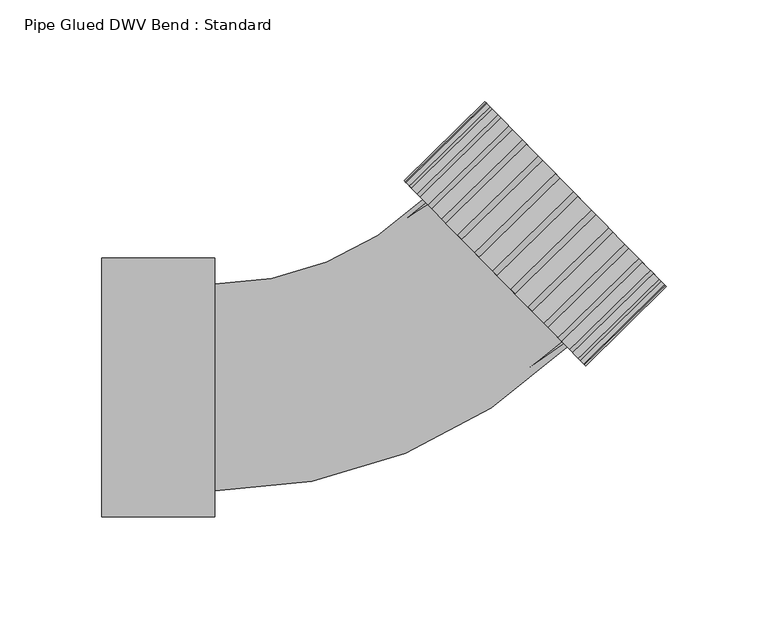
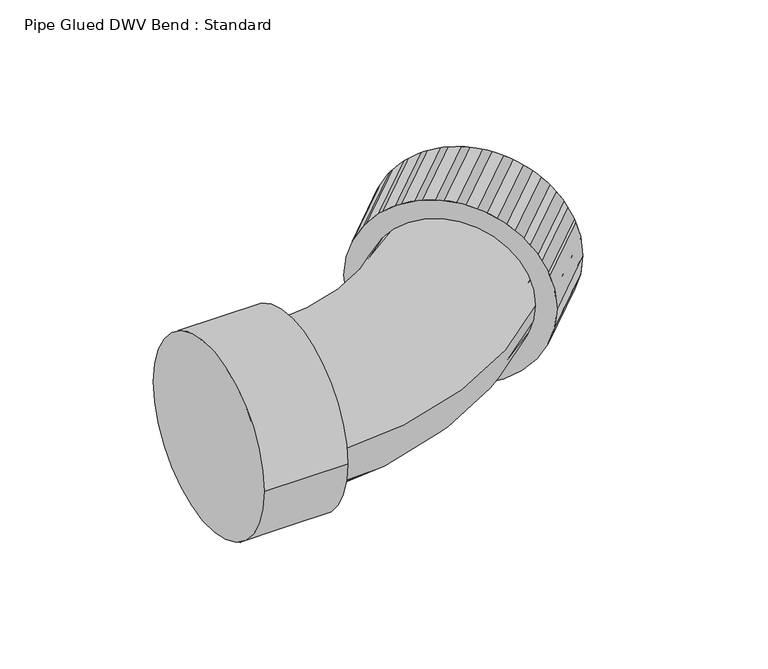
"""IFC4 building model written with IfcOpenShell, lengths in millimetres: pipe fitting geometry, Pipe Glued DWV Bend : Standard."""

from ifc_helpers import new_model, si_unit, point, frame, origin, origin_2d, place, context, project, spatial, circle_curve, ellipse_curve, trimmed, segment, composite_curve, outline, extrude, source, transform, mapped, element, save
from ifc_brep_helpers import plane_surface, cylinder_surface, revolved_surface, advanced_brep


def pipe_glued_dwv_bend_standard_de9b6336(model_context):
    return source(origin(), model_context, "Body", "SolidModel", [
        advanced_brep(
        [(-80.3393907, -50.8, 0.0), (-80.3393907, 50.8, 0.0), (92.9420883, 19.9204899, 0.0), (21.8522508, 92.5069556, 0.0)],
        [
            (0, 1, circle_curve(frame((-80.3393907, 0.0, 0.0), z_axis=(-1.0, 0.0, 0.0), x_axis=(0.0, 1.0, 0.0)), 50.8)),
            (1, 0, circle_curve(frame((-80.3393907, 0.0, 0.0), z_axis=(-1.0, 0.0, 0.0), x_axis=(0.0, 1.0, 0.0)), 50.8)),
            (2, 3, circle_curve(frame((57.3971695, 56.2137227, 0.0), z_axis=(0.7144337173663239, 0.6997031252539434, 0.0), x_axis=(-0.6997031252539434, 0.7144337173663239, 0.0)), 50.8)),
            (3, 2, circle_curve(frame((57.3971695, 56.2137227, 0.0), z_axis=(0.7144337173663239, 0.6997031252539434, 0.0), x_axis=(-0.6997031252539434, 0.7144337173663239, 0.0)), 50.8)),
            (3, 1, circle_curve(frame((-80.3393907, 196.85, 0.0), z_axis=(0.0, 0.0, -1.0), x_axis=(0.0, -1.0, 0.0)), 146.05)),
            (0, 2, circle_curve(frame((-80.3393907, 196.85, 0.0), z_axis=(0.0, 0.0, 1.0), x_axis=(0.0, -1.0, 0.0)), 247.65)),
        ],
        [
            plane_surface(frame((-80.3393907, 0.0, 0.0), z_axis=(-1.0, 0.0, 0.0), x_axis=(0.0, 0.0, 1.0))),
            plane_surface(frame((57.3971695, 56.2137227, 0.0), z_axis=(0.7144337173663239, 0.6997031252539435, 0.0), x_axis=(0.0, 0.0, 1.0))),
            revolved_surface(trimmed(ellipse_curve(frame((-80.3393907, 0.0, 0.0), z_axis=(-1.0, 0.0, 0.0), x_axis=(0.0, 1.0, 0.0)), 50.8, 50.8), [point((-80.3393907, -50.8, 0.0))], [point((-80.3393907, 50.8, 0.0))], True, "CARTESIAN"), (-80.3393907, 196.85, 0.0), (0.0, 0.0, 1.0)),
            revolved_surface(trimmed(ellipse_curve(frame((-80.3393907, 0.0, 0.0), z_axis=(-1.0, 0.0, 0.0), x_axis=(0.0, 1.0, 0.0)), 50.8, 50.8), [point((-80.3393907, 50.8, 0.0))], [point((-80.3393907, -50.8, 0.0))], True, "CARTESIAN"), (-80.3393907, 196.85, 0.0), (0.0, 0.0, 1.0)),
        ],
        [
            (0, [[1, 2]]),
            (1, [[3, 4]]),
            (2, [[5, -1, 6, -4]]),
            (3, [[-6, -2, -5, -3]]),
        ],
    ),
        extrude(outline(composite_curve([segment(trimmed(circle_curve(origin_2d(), 63.754), [point((-63.754, 0.0))], [point((63.754, 0.0))], False, "CARTESIAN"), True, "CONTINUOUS"), segment(trimmed(circle_curve(origin_2d(), 63.754), [point((63.754, 0.0))], [point((-63.754, 0.0))], False, "CARTESIAN"), True, "CONTINUOUS")], self_intersect=False)), frame((-135.9018907, 0.0, 0.0), z_axis=(1.0, 0.0, 0.0), x_axis=(0.0, 1.0, 0.0)), (0.0, 0.0, 1.0), 55.5625),
        extrude(outline(composite_curve([segment(trimmed(circle_curve(origin_2d(), 63.754), [point((0.0, -63.754))], [point((0.0, 63.754))], False, "CARTESIAN"), True, "CONTINUOUS"), segment(trimmed(circle_curve(origin_2d(), 63.754), [point((0.0, 63.754))], [point((0.0, -63.754))], False, "CARTESIAN"), True, "CONTINUOUS")], self_intersect=False)), frame((57.3971695, 56.2137227, 0.0), z_axis=(0.7144337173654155, 0.699703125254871, 0.0), x_axis=(0.0, 0.0, 1.0)), (0.0, 0.0, 1.0), 55.5625),
        advanced_brep(
        [(-135.9018907, -63.754, 0.0), (-135.9018907, 63.754, 0.0), (-80.3393907, -63.754, 0.0), (-80.3393907, 63.754, 0.0), (-80.3393907, -50.8, 0.0), (-80.3393907, 50.8, 0.0), (21.8522508, 92.5069556, 0.0), (92.9420883, 19.9204899, 0.0), (102.0060426, 10.6657155, 0.0), (12.7882965, 101.76173, 0.0), (141.701766, 49.5429704, 0.0), (52.4840199, 140.6389849, 0.0)],
        [
            (0, 1, circle_curve(frame((-135.9018907, 0.0, 0.0), z_axis=(-1.0, 0.0, 0.0), x_axis=(0.0, 1.0, 0.0)), 63.754)),
            (1, 0, circle_curve(frame((-135.9018907, 0.0, 0.0), z_axis=(-1.0, 0.0, 0.0), x_axis=(0.0, 1.0, 0.0)), 63.754)),
            (2, 3, circle_curve(frame((-80.3393907, 0.0, 0.0), z_axis=(1.0, 0.0, 0.0), x_axis=(0.0, 1.0, 0.0)), 63.754)),
            (3, 2, circle_curve(frame((-80.3393907, 0.0, 0.0), z_axis=(1.0, 0.0, 0.0), x_axis=(0.0, 1.0, 0.0)), 63.754)),
            (4, 5, circle_curve(frame((-80.3393907, 0.0, 0.0), z_axis=(-1.0, 0.0, 0.0), x_axis=(0.0, 1.0, 0.0)), 50.8)),
            (5, 4, circle_curve(frame((-80.3393907, 0.0, 0.0), z_axis=(-1.0, 0.0, 0.0), x_axis=(0.0, 1.0, 0.0)), 50.8)),
            (0, 2),
            (3, 1),
            (6, 5, circle_curve(frame((-80.3393907, 196.85, 0.0), z_axis=(0.0, 0.0, -1.0), x_axis=(0.0, -1.0, 0.0)), 146.05)),
            (4, 7, circle_curve(frame((-80.3393907, 196.85, 0.0), z_axis=(0.0, 0.0, 1.0), x_axis=(0.0, -1.0, 0.0)), 247.65)),
            (7, 6, circle_curve(frame((57.3971695, 56.2137227, 0.0), z_axis=(-0.7144337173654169, -0.6997031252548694, 0.0), x_axis=(-0.6997031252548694, 0.7144337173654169, 0.0)), 50.8)),
            (6, 7, circle_curve(frame((57.3971695, 56.2137227, 0.0), z_axis=(-0.7144337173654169, -0.6997031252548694, 0.0), x_axis=(-0.6997031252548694, 0.7144337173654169, 0.0)), 50.8)),
            (8, 9, circle_curve(frame((57.3971695, 56.2137227, 0.0), z_axis=(-0.7144337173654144, -0.6997031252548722, 0.0), x_axis=(-0.6997031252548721, 0.7144337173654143, 0.0)), 63.754)),
            (9, 8, circle_curve(frame((57.3971695, 56.2137227, 0.0), z_axis=(-0.7144337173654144, -0.6997031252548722, 0.0), x_axis=(-0.6997031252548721, 0.7144337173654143, 0.0)), 63.754)),
            (10, 11, circle_curve(frame((97.092893, 95.0909776, 0.0), z_axis=(0.7144337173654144, 0.6997031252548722, 0.0), x_axis=(-0.6997031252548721, 0.7144337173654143, 0.0)), 63.754)),
            (11, 10, circle_curve(frame((97.092893, 95.0909776, 0.0), z_axis=(0.7144337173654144, 0.6997031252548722, 0.0), x_axis=(-0.6997031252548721, 0.7144337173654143, 0.0)), 63.754)),
            (8, 10),
            (11, 9),
        ],
        [
            plane_surface(frame((-135.9018907, 0.0, 0.0), z_axis=(-1.0, 0.0, 0.0), x_axis=(0.0, 0.0, 1.0))),
            plane_surface(frame((-80.3393907, 0.0, 0.0), z_axis=(1.0, 0.0, 0.0), x_axis=(0.0, 0.0, 1.0))),
            cylinder_surface(frame((-135.9018907, 0.0, 0.0), z_axis=(-1.0, 0.0, 0.0), x_axis=(0.0, 1.0, 0.0)), 63.754),
            revolved_surface(trimmed(ellipse_curve(frame((-80.3393907, 0.0, 0.0), z_axis=(-1.0, 0.0, 0.0), x_axis=(0.0, 1.0, 0.0)), 50.8, 50.8), [point((-80.3393907, -50.8, 0.0))], [point((-80.3393907, 50.8, 0.0))], True, "CARTESIAN"), (-80.3393907, 196.85, 0.0), (0.0, 0.0, 1.0)),
            revolved_surface(trimmed(ellipse_curve(frame((-80.3393907, 0.0, 0.0), z_axis=(-1.0, 0.0, 0.0), x_axis=(0.0, 1.0, 0.0)), 50.8, 50.8), [point((-80.3393907, 50.8, 0.0))], [point((-80.3393907, -50.8, 0.0))], True, "CARTESIAN"), (-80.3393907, 196.85, 0.0), (0.0, 0.0, 1.0)),
            plane_surface(frame((57.3971695, 56.2137227, 0.0), z_axis=(-0.7144337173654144, -0.6997031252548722, 0.0), x_axis=(0.0, 0.0, 1.0))),
            plane_surface(frame((97.092893, 95.0909776, 0.0), z_axis=(0.7144337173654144, 0.6997031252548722, 0.0), x_axis=(0.0, 0.0, 1.0))),
            cylinder_surface(frame((57.3971695, 56.2137227, 0.0), z_axis=(-0.7144337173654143, -0.6997031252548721, 0.0), x_axis=(-0.6997031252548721, 0.7144337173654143, 0.0)), 63.754),
        ],
        [
            (0, [[1, 2]]),
            (1, [[3, 4], [5, 6]]),
            (2, [[-1, 7, -4, 8]]),
            (2, [[-2, -8, -3, -7]]),
            (3, [[9, -5, 10, 11]]),
            (4, [[-9, 12, -10, -6]]),
            (5, [[13, 14], [-11, -12]]),
            (6, [[15, 16]]),
            (7, [[-13, 17, -16, 18]]),
            (7, [[-14, -18, -15, -17]]),
        ],
    ),
    ])


if __name__ == "__main__":
    model = new_model("IFC4")
    model_context = context("Model", 3, world=origin())
    ifc_project = project(units=[si_unit("LENGTHUNIT", "METRE", prefix="MILLI")], contexts=[model_context])
    site = spatial("IfcSite", under=ifc_project)
    building = spatial("IfcBuilding", under=site)
    placement = place(None, origin())
    pipe_glued_dwv_bend_standard_shape = pipe_glued_dwv_bend_standard_de9b6336(model_context)
    element("IfcPipeFitting", 1, ObjectType="Pipe Glued DWV Bend : Standard", at=placement, inside=building, context=model_context, shape_type="MappedRepresentation", body=[
        mapped(pipe_glued_dwv_bend_standard_shape, transform((0.0, 0.0, 0.0), x_axis=(1.0, 0.0, 0.0), y_axis=(0.0, 1.0, 0.0), z_axis=(0.0, 0.0, 1.0))),
    ])
    save(model, "model.ifc")
